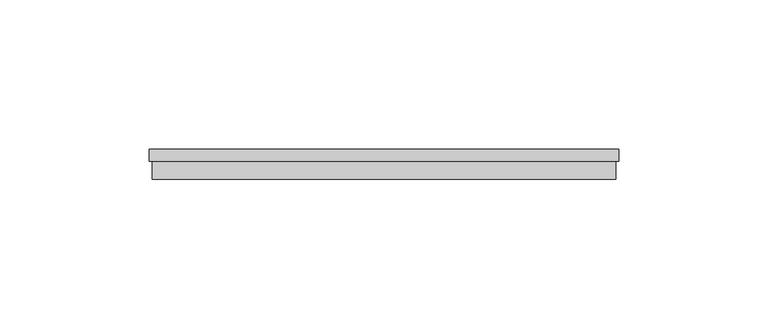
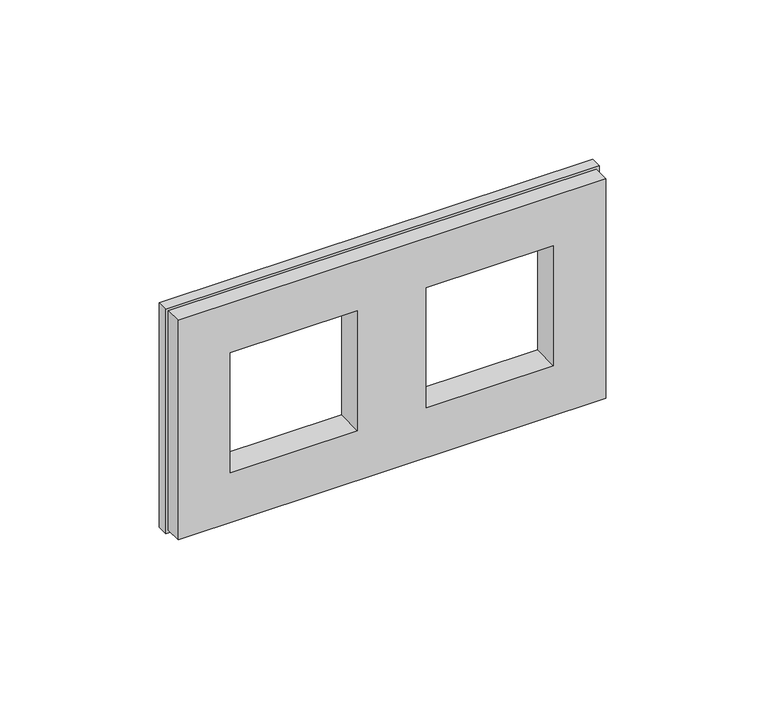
"""IFC4 building model written with IfcOpenShell, lengths in millimetres: proxy geometry, IEK_Skandy_Рамка : x2_SK-F32Bl."""

import ifcopenshell
import ifcopenshell.guid

model = None  # the IFC model being written
_history = None  # IfcOwnerHistory: only IFC2X3 demands one
_inside = {}  # id of a spatial element -> (the spatial element, [elements in it])
_under = {}  # id of a project, library or spatial element -> (it, [spatial elements below it])
_declared = {}  # id of a project -> (the project, [libraries it declares])
_typed = {}  # id of a type object -> (the type object, [elements of that type])
_made_of = {}  # id of a material, layer set ... -> (it, [elements and type objects made of it])


def new_model(schema):
    """Start an empty IFC model of exactly this schema.

    Asked for "IFC4X3", IfcOpenShell would pick the latest addendum, in which some entities
    have other attributes; the version numbers below select the first issue.
    IFC2X3 requires an IfcOwnerHistory on every rooted entity: one is made here for all.
    """
    global model, _history
    if schema == "IFC4X3":
        model = ifcopenshell.file(schema_version=(4, 3, 0, 0))
    else:
        model = ifcopenshell.file(schema=schema)
    _inside.clear()
    _under.clear()
    _declared.clear()
    _typed.clear()
    _made_of.clear()
    _history = None
    if model.schema == "IFC2X3":
        org = make("IfcOrganization", Name="unknown")
        user = make(
            "IfcPersonAndOrganization",
            ThePerson=make("IfcPerson", FamilyName="unknown"),
            TheOrganization=org,
        )
        app = make(
            "IfcApplication",
            ApplicationDeveloper=org,
            Version="unknown",
            ApplicationFullName="unknown",
            ApplicationIdentifier="unknown",
        )
        _history = make(
            "IfcOwnerHistory",
            OwningUser=user,
            OwningApplication=app,
            ChangeAction="ADDED",
            CreationDate=0,
        )
    return model


def make(cls, **values):
    """One entity of the class cls with the attributes given. An attribute that is None is left unset."""
    return model.create_entity(
        cls, **{name: value for name, value in values.items() if value is not None}
    )


def rooted(cls, **values):
    """An entity with a GlobalId (a new one), such as an element, a storey or a relation."""
    return make(cls, GlobalId=ifcopenshell.guid.new(), OwnerHistory=_history, **values)


def si_unit(unit_type, name, prefix=None):
    """IfcSIUnit, for example si_unit("LENGTHUNIT", "METRE", prefix="MILLI")."""
    return make("IfcSIUnit", UnitType=unit_type, Prefix=prefix, Name=name)


def assignment(units):
    """IfcUnitAssignment: the units of a project."""
    return None if units is None else make("IfcUnitAssignment", Units=units)


def point(xyz):
    """IfcCartesianPoint."""
    return None if xyz is None else make("IfcCartesianPoint", Coordinates=xyz)


def direction(xyz):
    """IfcDirection."""
    return None if xyz is None else make("IfcDirection", DirectionRatios=xyz)


def frame(location, z_axis=None, x_axis=None):
    """IfcAxis2Placement3D, a coordinate frame: its origin and axes. An axis left out is left unset."""
    return make(
        "IfcAxis2Placement3D",
        Location=point(location),
        Axis=direction(z_axis),
        RefDirection=direction(x_axis),
    )


def origin():
    """The frame at (0, 0, 0) with its axes left unset."""
    return frame((0.0, 0.0, 0.0))


def place(relative_to, where):
    """IfcLocalPlacement: puts the frame where relative to a parent placement (None: the world)."""
    return make(
        "IfcLocalPlacement", PlacementRelTo=relative_to, RelativePlacement=where
    )


def context(
    kind, dimensions, precision=None, world=None, true_north=None, identifier=None
):
    """IfcGeometricRepresentationContext, for example the 3D "Model" context."""
    return make(
        "IfcGeometricRepresentationContext",
        ContextIdentifier=identifier,
        ContextType=kind,
        CoordinateSpaceDimension=dimensions,
        Precision=precision,
        WorldCoordinateSystem=world,
        TrueNorth=true_north,
    )


def project(units=None, contexts=None):
    """IfcProject with its units and contexts."""
    return rooted(
        "IfcProject",
        Name="project",
        RepresentationContexts=contexts,
        UnitsInContext=assignment(units),
    )


def spatial(cls, under=None, at=None, **own):
    """A site, building, storey or space (cls), placed at a placement, below another one or the project."""
    s = rooted(cls, ObjectPlacement=at, **own)
    if under is not None:
        _under.setdefault(under.id(), (under, []))[1].append(s)
    return s


def faces_of(points, faces, orient=None, outer=None):
    """IfcFace entities. A face is a list of loops; a loop is a list of indices into points, from 0.

    orient and outer hold one flag for each loop. By default every Orientation is true, the
    first loop of a face is its IfcFaceOuterBound and the others are IfcFaceBound.
    """
    made = []
    for i, loops in enumerate(faces):
        bounds = []
        for j, loop in enumerate(loops):
            is_outer = j == 0 if outer is None else outer[i][j]
            bounds.append(
                make(
                    "IfcFaceOuterBound" if is_outer else "IfcFaceBound",
                    Bound=make("IfcPolyLoop", Polygon=[points[k] for k in loop]),
                    Orientation=True if orient is None else orient[i][j],
                )
            )
        made.append(make("IfcFace", Bounds=bounds))
    return made


def faceted_brep(points, faces, orient=None, outer=None, voids=None):
    """IfcFacetedBrep: a solid bounded by flat faces; with voids (closed shells), ...WithVoids."""
    shared = [point(p) for p in points]
    hull = make("IfcClosedShell", CfsFaces=faces_of(shared, faces, orient, outer))
    if voids is None:
        return make("IfcFacetedBrep", Outer=hull)
    return make(
        "IfcFacetedBrepWithVoids",
        Outer=hull,
        Voids=[
            make(cls, CfsFaces=faces_of(shared, fs, o, b)) for cls, fs, o, b in voids
        ],
    )


def shape(context_of_items, identifier, shape_type, items):
    """IfcShapeRepresentation: the items that make up one representation, for example the "Body"."""
    return make(
        "IfcShapeRepresentation",
        ContextOfItems=context_of_items,
        RepresentationIdentifier=identifier,
        RepresentationType=shape_type,
        Items=items,
    )


def source(mapping_origin, context_of_items, identifier, shape_type, items):
    """IfcRepresentationMap: a shape defined once, which mapped items show again and again."""
    return make(
        "IfcRepresentationMap",
        MappingOrigin=mapping_origin,
        MappedRepresentation=shape(context_of_items, identifier, shape_type, items),
    )


def transform(
    local_origin,
    x_axis=None,
    y_axis=None,
    z_axis=None,
    scale=None,
    scale2=None,
    scale3=None,
    uniform=True,
):
    """IfcCartesianTransformationOperator3D, or its non-uniform kind. x_axis, y_axis, z_axis: its Axis1, 2, 3."""
    if uniform:
        return make(
            "IfcCartesianTransformationOperator3D",
            Axis1=direction(x_axis),
            Axis2=direction(y_axis),
            LocalOrigin=point(local_origin),
            Scale=scale,
            Axis3=direction(z_axis),
        )
    return make(
        "IfcCartesianTransformationOperator3DnonUniform",
        Axis1=direction(x_axis),
        Axis2=direction(y_axis),
        LocalOrigin=point(local_origin),
        Scale=scale,
        Axis3=direction(z_axis),
        Scale2=scale2,
        Scale3=scale3,
    )


def mapped(mapping_source, mapping_target):
    """IfcMappedItem: shows the shape of a source again, moved by a transform."""
    return make(
        "IfcMappedItem", MappingSource=mapping_source, MappingTarget=mapping_target
    )


def made_of(thing, what):
    """Note that an element or type object is made of a material, layer set ...; save() writes the relation."""
    if what is not None:
        _made_of.setdefault(what.id(), (what, []))[1].append(thing)
    return thing


def element(
    cls,
    number,
    at=None,
    inside=None,
    cuts=None,
    type_object=None,
    material=None,
    context=None,
    identifier="Body",
    shape_type=None,
    held_by="IfcProductDefinitionShape",
    body=None,
    shapes=None,
    **own,
):
    """One element of the class cls, such as IfcWall. Its Tag is "e" and its number.

    at: its placement. inside: the storey or other place that contains it. cuts: it is an
    opening in that element (IfcRelVoidsElement). A single representation is given by context,
    identifier, shape_type and body (its items); several are given by shapes. held_by: the class
    of the entity that holds the representations. save() writes the other relations.
    """
    e = rooted(cls, Tag="e%d" % number, ObjectPlacement=at, **own)
    if body is not None:
        shapes = [shape(context, identifier, shape_type, body)]
    if shapes is not None:
        e.Representation = make(held_by, Representations=shapes)
    if inside is not None:
        _inside.setdefault(inside.id(), (inside, []))[1].append(e)
    if cuts is not None:
        rooted(
            "IfcRelVoidsElement", RelatingBuildingElement=cuts, RelatedOpeningElement=e
        )
    if type_object is not None:
        _typed.setdefault(type_object.id(), (type_object, []))[1].append(e)
    return made_of(e, material)


def aggregate(whole, parts):
    """IfcRelAggregates: a whole, such as a stair, and the parts it consists of."""
    return rooted("IfcRelAggregates", RelatingObject=whole, RelatedObjects=parts)


def save(model, path):
    """Write the relations noted so far, then the file.

    IfcRelAggregates (storeys below a building ...), IfcRelContainedInSpatialStructure (elements
    in a storey), IfcRelDefinesByType, IfcRelAssociatesMaterial and IfcRelDeclares: one each for
    every whole, place, type object, material and project.
    """
    for whole, parts in _under.values():
        aggregate(whole, parts)
    for where, things in _inside.values():
        rooted(
            "IfcRelContainedInSpatialStructure",
            RelatedElements=things,
            RelatingStructure=where,
        )
    for kind, things in _typed.values():
        rooted("IfcRelDefinesByType", RelatedObjects=things, RelatingType=kind)
    for what, things in _made_of.values():
        rooted("IfcRelAssociatesMaterial", RelatedObjects=things, RelatingMaterial=what)
    for by, libraries in _declared.values():
        rooted("IfcRelDeclares", RelatingContext=by, RelatedDefinitions=libraries)
    model.write(path)


def electrical_fixtures_aba3774c(model_context):
    return source(origin(), model_context, "Body", "Brep", [
        faceted_brep([(23.0, 10.0, 23.0), (23.0, 0.0, 23.0), (-23.0, 0.0, 23.0), (-23.0, 10.0, 23.0), (23.0, 10.0, -23.0), (23.0, 0.0, -23.0), (-23.0, 10.0, -23.0), (-23.0, 0.0, -23.0), (-113.0, 0.0, 42.0), (-113.0, 0.0, -42.0), (42.0, 0.0, -42.0), (42.0, 0.0, 42.0), (-94.0, 0.0, 23.0), (-48.0, 0.0, 23.0), (-48.0, 0.0, -23.0), (-94.0, 0.0, -23.0), (-113.0, 6.0, 42.0), (-113.0, 6.0, -42.0), (42.0, 6.0, -42.0), (42.0, 6.0, 42.0), (-48.0, 10.0, 23.0), (-94.0, 10.0, 23.0), (-48.0, 10.0, -23.0), (-94.0, 10.0, -23.0), (-114.0, 6.0, 43.0), (-114.0, 6.0, -43.0), (43.0, 6.0, -43.0), (43.0, 6.0, 43.0), (-114.0, 10.0, 43.0), (-114.0, 10.0, -43.0), (43.0, 10.0, -43.0), (43.0, 10.0, 43.0)], [[[0, 1, 2, 3]], [[1, 0, 4, 5]], [[5, 4, 6, 7]], [[3, 2, 7, 6]], [[8, 9, 10, 11], [2, 1, 5, 7], [12, 13, 14, 15]], [[9, 8, 16, 17]], [[10, 9, 17, 18]], [[11, 10, 18, 19]], [[8, 11, 19, 16]], [[20, 13, 12, 21]], [[13, 20, 22, 14]], [[14, 22, 23, 15]], [[21, 12, 15, 23]], [[24, 25, 26, 27], [17, 16, 19, 18]], [[25, 24, 28, 29]], [[26, 25, 29, 30]], [[27, 26, 30, 31]], [[24, 27, 31, 28]], [[28, 31, 30, 29], [0, 3, 6, 4], [20, 21, 23, 22]]]),
    ])


if __name__ == "__main__":
    model = new_model("IFC4")
    model_context = context("Model", 3, world=origin())
    ifc_project = project(units=[si_unit("LENGTHUNIT", "METRE", prefix="MILLI")], contexts=[model_context])
    site = spatial("IfcSite", under=ifc_project)
    building = spatial("IfcBuilding", under=site)
    placement = place(None, origin())
    electrical_fixtures_shape = electrical_fixtures_aba3774c(model_context)
    element("IfcBuildingElementProxy", 1, Name="IEK_Skandy_Рамка : x2_SK-F32Bl", ObjectType="IEK_Skandy_Рамка : x2_SK-F32Bl", at=placement, inside=building, context=model_context, shape_type="MappedRepresentation", body=[
        mapped(electrical_fixtures_shape, transform((0.0, 0.0, 0.0), x_axis=(1.0, 0.0, 0.0), y_axis=(0.0, 1.0, 0.0), z_axis=(0.0, 0.0, 1.0))),
    ])
    save(model, "model.ifc")
